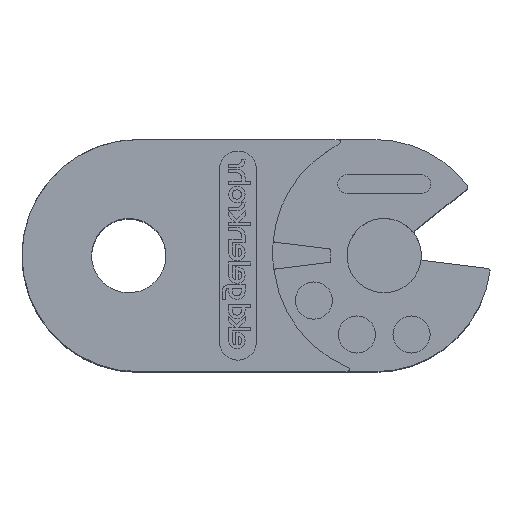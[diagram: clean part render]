
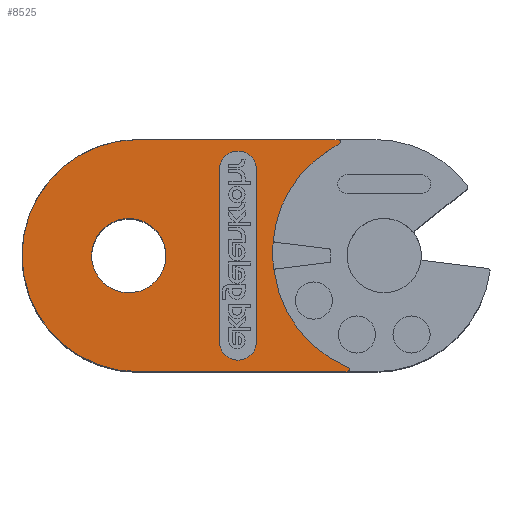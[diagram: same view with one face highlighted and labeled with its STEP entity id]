
A CAD part, top view. The second image highlights one B-rep face of the part: STEP entity #8525.
In plain terms, the highlighted planar face has unit normal (0, 0, 1).
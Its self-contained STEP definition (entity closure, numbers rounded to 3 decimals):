
#7440=CARTESIAN_POINT('',(186.111,120.46,8.));
#7441=VERTEX_POINT('',#7440);
#7448=CARTESIAN_POINT('',(186.111,170.46,8.));
#7449=VERTEX_POINT('',#7448);
#7450=CARTESIAN_POINT('',(186.111,145.46,8.));
#7451=DIRECTION('',(0.0,0.0,-1.0));
#7452=DIRECTION('',(0.0,-1.0,0.0));
#7453=AXIS2_PLACEMENT_3D('',#7450,#7451,#7452);
#7454=CIRCLE('',#7453,25.0);
#7455=EDGE_CURVE('',#7441,#7449,#7454,.T.);
#8149=CARTESIAN_POINT('',(189.508,151.365,8.));
#8150=VERTEX_POINT('',#8149);
#8157=CARTESIAN_POINT('',(178.713,139.556,8.));
#8158=VERTEX_POINT('',#8157);
#8159=CARTESIAN_POINT('',(184.111,145.46,8.));
#8160=DIRECTION('',(0.0,0.0,1.0));
#8161=DIRECTION('',(-1.0,0.0,0.0));
#8162=AXIS2_PLACEMENT_3D('',#8159,#8160,#8161);
#8163=CIRCLE('',#8162,8.0);
#8164=EDGE_CURVE('',#8150,#8158,#8163,.T.);
#8264=CARTESIAN_POINT('',(215.226,148.883,8.));
#8265=VERTEX_POINT('',#8264);
#8272=CARTESIAN_POINT('',(215.425,142.043,8.));
#8273=VERTEX_POINT('',#8272);
#8274=CARTESIAN_POINT('',(240.932,146.21,8.));
#8275=DIRECTION('',(0.0,0.0,1.));
#8276=DIRECTION('',(-0.987,-0.161,0.0));
#8277=AXIS2_PLACEMENT_3D('',#8274,#8275,#8276);
#8278=CIRCLE('',#8277,25.845);
#8279=EDGE_CURVE('',#8265,#8273,#8278,.T.);
#8414=CARTESIAN_POINT('',(239.789,145.654,8.));
#8415=DIRECTION('',(0.0,0.0,-1.0));
#8416=DIRECTION('',(-1.0,0.0,0.0));
#8417=AXIS2_PLACEMENT_3D('',#8414,#8415,#8416);
#8418=PLANE('',#8417);
#8419=ORIENTED_EDGE('',*,*,#8279,.F.);
#8420=CARTESIAN_POINT('',(226.871,167.942,8.));
#8421=VERTEX_POINT('',#8420);
#8422=CARTESIAN_POINT('',(240.611,146.46,8.));
#8423=DIRECTION('',(0.0,0.0,1.));
#8424=DIRECTION('',(-0.995,0.095,0.0));
#8425=AXIS2_PLACEMENT_3D('',#8422,#8423,#8424);
#8426=CIRCLE('',#8425,25.5);
#8427=EDGE_CURVE('',#8421,#8265,#8426,.T.);
#8428=ORIENTED_EDGE('',*,*,#8427,.F.);
#8429=CARTESIAN_POINT('',(229.429,169.536,8.));
#8430=VERTEX_POINT('',#8429);
#8431=CARTESIAN_POINT('',(229.429,169.536,8.));
#8432=DIRECTION('',(-0.849,-0.529,0.0));
#8433=VECTOR('',#8432,3.014);
#8434=LINE('',#8431,#8433);
#8435=EDGE_CURVE('',#8430,#8421,#8434,.T.);
#8436=ORIENTED_EDGE('',*,*,#8435,.F.);
#8437=CARTESIAN_POINT('',(229.165,170.46,8.));
#8438=VERTEX_POINT('',#8437);
#8439=CARTESIAN_POINT('',(229.165,169.96,8.));
#8440=DIRECTION('',(0.0,0.0,-1.0));
#8441=DIRECTION('',(0.0,-1.0,0.0));
#8442=AXIS2_PLACEMENT_3D('',#8439,#8440,#8441);
#8443=CIRCLE('',#8442,0.5);
#8444=EDGE_CURVE('',#8438,#8430,#8443,.T.);
#8445=ORIENTED_EDGE('',*,*,#8444,.F.);
#8446=CARTESIAN_POINT('',(186.111,170.46,8.));
#8447=DIRECTION('',(1.0,0.0,0.0));
#8448=VECTOR('',#8447,43.054);
#8449=LINE('',#8446,#8448);
#8450=EDGE_CURVE('',#7449,#8438,#8449,.T.);
#8451=ORIENTED_EDGE('',*,*,#8450,.F.);
#8452=ORIENTED_EDGE('',*,*,#7455,.F.);
#8453=CARTESIAN_POINT('',(231.1,120.46,8.));
#8454=VERTEX_POINT('',#8453);
#8455=CARTESIAN_POINT('',(231.1,120.46,8.));
#8456=DIRECTION('',(-1.0,0.0,0.0));
#8457=VECTOR('',#8456,44.99);
#8458=LINE('',#8455,#8457);
#8459=EDGE_CURVE('',#8454,#7441,#8458,.T.);
#8460=ORIENTED_EDGE('',*,*,#8459,.F.);
#8461=CARTESIAN_POINT('',(231.291,121.423,8.));
#8462=VERTEX_POINT('',#8461);
#8463=CARTESIAN_POINT('',(231.1,120.96,8.));
#8464=DIRECTION('',(0.0,0.0,-1.));
#8465=DIRECTION('',(-0.381,-0.925,0.0));
#8466=AXIS2_PLACEMENT_3D('',#8463,#8464,#8465);
#8467=CIRCLE('',#8466,0.5);
#8468=EDGE_CURVE('',#8462,#8454,#8467,.T.);
#8469=ORIENTED_EDGE('',*,*,#8468,.F.);
#8470=CARTESIAN_POINT('',(241.2,145.46,8.));
#8471=DIRECTION('',(0.0,0.0,1.));
#8472=DIRECTION('',(-0.381,-0.925,0.0));
#8473=AXIS2_PLACEMENT_3D('',#8470,#8471,#8472);
#8474=CIRCLE('',#8473,26.);
#8475=EDGE_CURVE('',#8273,#8462,#8474,.T.);
#8476=ORIENTED_EDGE('',*,*,#8475,.F.);
#8477=EDGE_LOOP('',(#8419,#8428,#8436,#8445,#8451,#8452,#8460,#8469,#8476));
#8478=FACE_OUTER_BOUND('',#8477,.T.);
#8479=CARTESIAN_POINT('',(211.611,163.96,8.));
#8480=VERTEX_POINT('',#8479);
#8481=CARTESIAN_POINT('',(203.611,163.96,8.));
#8482=VERTEX_POINT('',#8481);
#8483=CARTESIAN_POINT('',(207.611,163.96,8.));
#8484=DIRECTION('',(0.0,0.0,1.0));
#8485=DIRECTION('',(1.0,0.0,0.0));
#8486=AXIS2_PLACEMENT_3D('',#8483,#8484,#8485);
#8487=CIRCLE('',#8486,4.);
#8488=EDGE_CURVE('',#8480,#8482,#8487,.T.);
#8489=ORIENTED_EDGE('',*,*,#8488,.F.);
#8490=CARTESIAN_POINT('',(211.611,126.96,8.));
#8491=VERTEX_POINT('',#8490);
#8492=CARTESIAN_POINT('',(211.611,126.96,8.));
#8493=DIRECTION('',(0.0,1.0,0.0));
#8494=VECTOR('',#8493,37.);
#8495=LINE('',#8492,#8494);
#8496=EDGE_CURVE('',#8491,#8480,#8495,.T.);
#8497=ORIENTED_EDGE('',*,*,#8496,.F.);
#8498=CARTESIAN_POINT('',(203.611,126.96,8.));
#8499=VERTEX_POINT('',#8498);
#8500=CARTESIAN_POINT('',(207.611,126.96,8.));
#8501=DIRECTION('',(0.0,0.0,1.0));
#8502=DIRECTION('',(-1.0,0.0,0.0));
#8503=AXIS2_PLACEMENT_3D('',#8500,#8501,#8502);
#8504=CIRCLE('',#8503,4.);
#8505=EDGE_CURVE('',#8499,#8491,#8504,.T.);
#8506=ORIENTED_EDGE('',*,*,#8505,.F.);
#8507=CARTESIAN_POINT('',(203.611,163.96,8.));
#8508=DIRECTION('',(0.0,-1.0,0.0));
#8509=VECTOR('',#8508,37.);
#8510=LINE('',#8507,#8509);
#8511=EDGE_CURVE('',#8482,#8499,#8510,.T.);
#8512=ORIENTED_EDGE('',*,*,#8511,.F.);
#8513=EDGE_LOOP('',(#8489,#8497,#8506,#8512));
#8514=FACE_BOUND('',#8513,.T.);
#8515=CARTESIAN_POINT('',(184.111,145.46,8.));
#8516=DIRECTION('',(0.0,0.0,1.0));
#8517=DIRECTION('',(-1.0,0.0,0.0));
#8518=AXIS2_PLACEMENT_3D('',#8515,#8516,#8517);
#8519=CIRCLE('',#8518,8.0);
#8520=EDGE_CURVE('',#8158,#8150,#8519,.T.);
#8521=ORIENTED_EDGE('',*,*,#8520,.F.);
#8522=ORIENTED_EDGE('',*,*,#8164,.F.);
#8523=EDGE_LOOP('',(#8521,#8522));
#8524=FACE_BOUND('',#8523,.T.);
#8525=ADVANCED_FACE('',(#8478,#8514,#8524),#8418,.F.);
